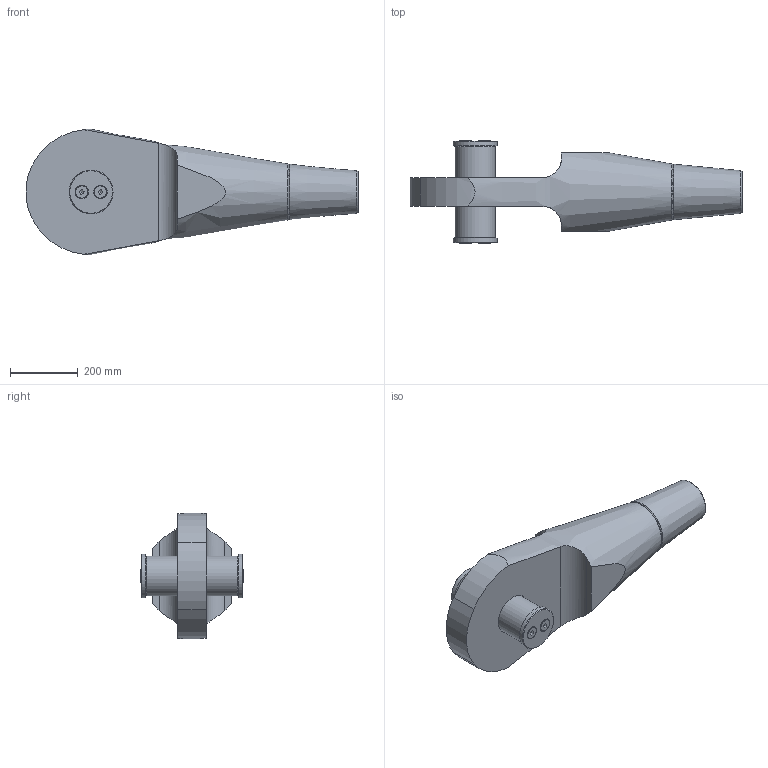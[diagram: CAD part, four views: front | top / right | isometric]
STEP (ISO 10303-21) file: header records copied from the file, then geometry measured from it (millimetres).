
FILE_DESCRIPTION(/* description */ (''),/* implementation_level */ '2;1');
FILE_NAME(/* name */ 'G:\Engineering\700 CAD\Internet-PX-1-step-igs-dxf\520-OES-Arbeitsdateien\520-110-OES.stp',/* time_stamp */ '2020-06-26T10:41:46+02:00',/* author */ ('schwarz'),/* organization */ (''),/* preprocessor_version */ 'ST-DEVELOPER v16.1',/* originating_system */ 'Autodesk Inventor 2016',/* authorisation */ '');
FILE_SCHEMA (('AUTOMOTIVE_DESIGN { 1 0 10303 214 3 1 1 }'));
Length unit declared in the file: centimetre
Products named in the file (1): 520-110-OES-KMU-Kunde
Bounding box: 981.36 x 302 x 370.95 mm (x, y, z)
Volume: 29158086.7 mm3; surface area: 949462 mm2
Topology: 2 solids, 10 shells, 104 faces, 243 edges, 159 vertices
Faces by surface type: plane 49, cone 28, cylinder 26, torus 1
Full cylindrical faces by diameter (mm): 17.294 x4, 20 x4, 22 x4, 36.05 x4, 114 x1, 118 x1, 121 x1, 130 x2
Entity records: 2703 total; most frequent: CARTESIAN_POINT 595, DIRECTION 406, ORIENTED_EDGE 328, AXIS2_PLACEMENT_3D 175, EDGE_LOOP 164, EDGE_CURVE 164, VERTEX_POINT 130, STYLED_ITEM 106
